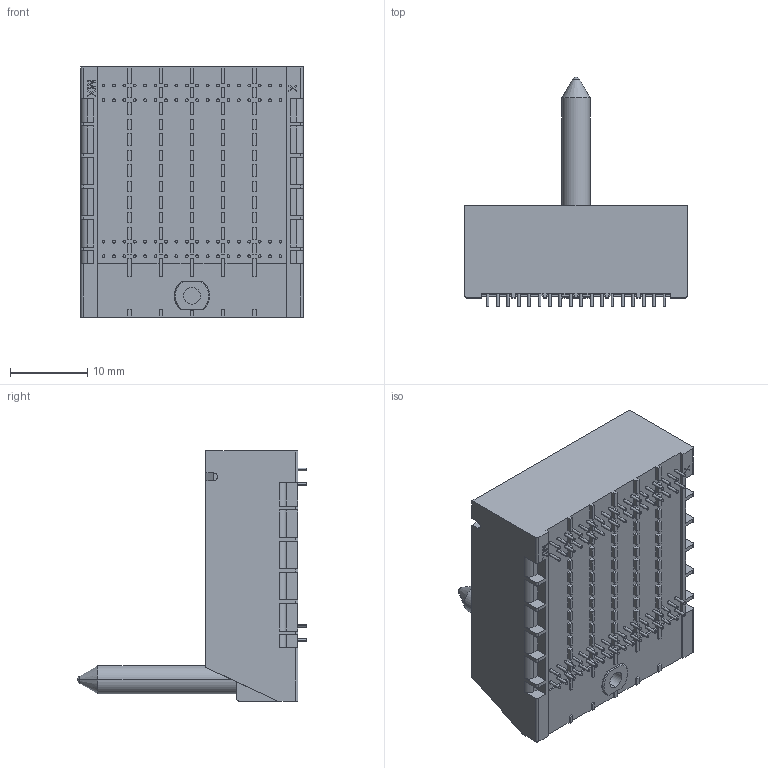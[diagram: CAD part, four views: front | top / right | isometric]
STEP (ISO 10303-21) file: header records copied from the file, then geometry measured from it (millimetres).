
FILE_DESCRIPTION((''),'2;1');
FILE_NAME('762899208','2014-02-17T',('me'),(''),'PRO/ENGINEER BY PARAMETRIC TECHNOLOGY CORPORATION, 2011490','PRO/ENGINEER BY PARAMETRIC TECHNOLOGY CORPORATION, 2011490','');
FILE_SCHEMA(('CONFIG_CONTROL_DESIGN'));
Length unit declared in the file: millimetre
Products named in the file (1): 762899208
Bounding box: 28.85 x 29.79 x 32.43 mm (x, y, z)
Volume: 3860.8 mm3; surface area: 5299.7 mm2
Topology: 1 solids, 1 shells, 1139 faces, 3225 edges, 2292 vertices
Faces by surface type: plane 939, cylinder 192, cone 4, torus 2, sphere 2
Entity records: 36492 total; most frequent: DIRECTION 6319, CARTESIAN_POINT 6269, ORIENTED_EDGE 5578, EDGE_CURVE 2789, VECTOR 2385, LINE 2385, AXIS2_PLACEMENT_3D 1967, VERTEX_POINT 1858
